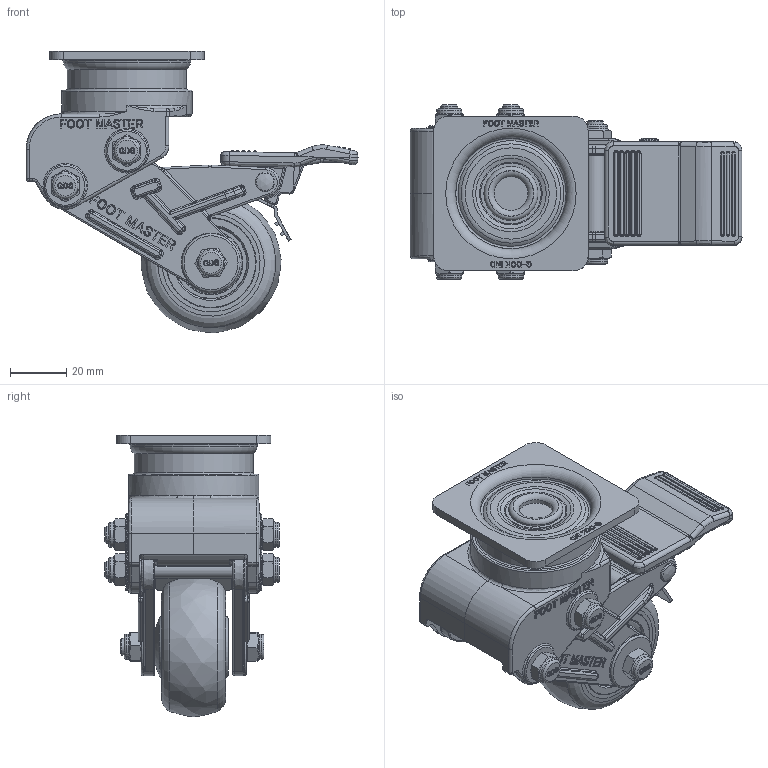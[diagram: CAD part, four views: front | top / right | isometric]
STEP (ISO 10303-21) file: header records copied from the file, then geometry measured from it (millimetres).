
FILE_DESCRIPTION(/* description */ (''),/* implementation_level */ '2;1');
FILE_NAME(/* name */ 'C:\Users\admin\Desktop\JYS\개발품\상세설계_20220328\홈페이지용 도면\GDS-50-BRF-EUS.stp',/* time_stamp */ '2023-03-08T14:51:38+09:00',/* author */ ('admin'),/* organization */ (''),/* preprocessor_version */ 'ST-DEVELOPER v18.1',/* originating_system */ 'Autodesk Inventor 2021',/* authorisation */ '');
FILE_SCHEMA (('AUTOMOTIVE_DESIGN { 1 0 10303 214 3 1 1 }'));
Products named in the file (1): GDS-50_BRF_REV01_Shrinkwrap_1
Bounding box: 118.43 x 62.3 x 100.48 mm (x, y, z)
Volume: 136352 mm3; surface area: 55890.3 mm2
Topology: 1 solids, 1 shells, 2667 faces, 6852 edges, 4287 vertices
Faces by surface type: plane 927, bspline 836, cylinder 536, cone 163, torus 153, sphere 52
Full cylindrical faces by diameter (mm): 2 x1, 4 x3, 6 x5, 7 x2, 8.8 x3, 9 x6, 12 x1, 17.216 x2, 18 x1, 19.3 x1, 20 x2, 22 x2, 22.784 x2, 42.5 x1, 46.5 x1
Entity records: 92859 total; most frequent: CARTESIAN_POINT 29885, ORIENTED_EDGE 13628, DIRECTION 10786, EDGE_CURVE 6814, VERTEX_POINT 4287, AXIS2_PLACEMENT_3D 3786, LINE 3214, VECTOR 3214
